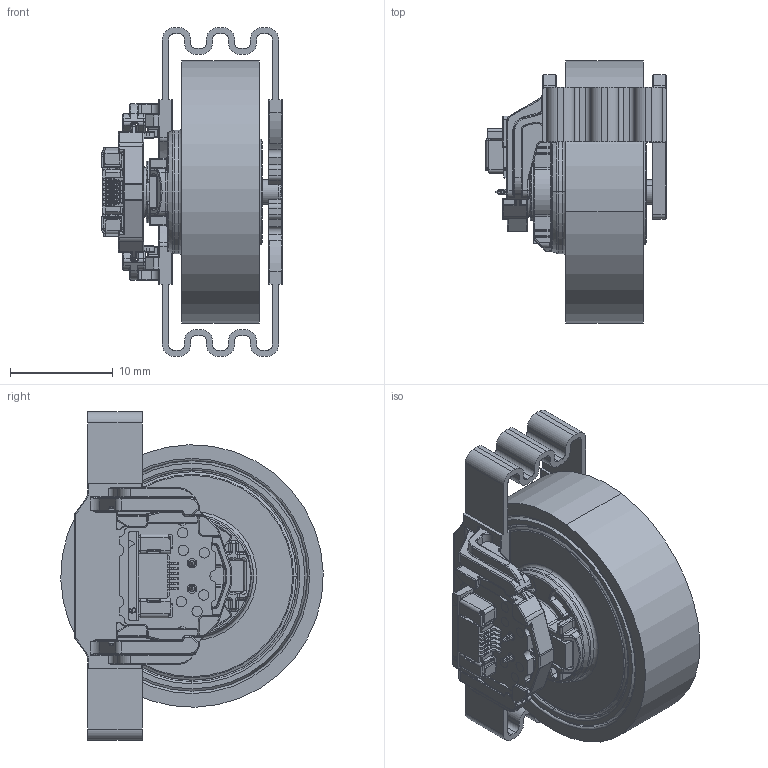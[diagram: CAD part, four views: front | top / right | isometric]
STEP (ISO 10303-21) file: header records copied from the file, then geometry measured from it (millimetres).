
FILE_DESCRIPTION(('Creo Elements/Direct Modeling STEP Export'),'2;1');
FILE_NAME('Confidential_Core01_X007.stp','2025-09-15T16:38:48',(''),(''),'Creo Elements/Direct Modeling STEP processor for AP214 (Solid Model)','Creo Elements/Direct Modeling 20.4C 14-Jan-2023 (C) Parametric Technology GmbH','');
FILE_SCHEMA(('AUTOMOTIVE_DESIGN { 1 0 10303 214 1 1 1 1 }'));
Length unit declared in the file: millimetre
Products named in the file (8): Hapticore; Stecker; PCBA; PCB; Hapticore_One; Dummy_Cradle; Dummy_Roller; Confidential_Core01_X007
Assembly tree (7 placements, depth 4):
  Confidential_Core01_X007
    Dummy_Roller
    Dummy_Cradle
    Hapticore_One
      PCB
        PCBA
        Stecker
      Hapticore
Bounding box: 17.55 x 25.55 x 31.99 mm (x, y, z)
Volume: 4829.4 mm3; surface area: 5544.7 mm2
Topology: 5 solids, 6 shells, 4149 faces, 10905 edges, 6697 vertices
Faces by surface type: plane 1496, cylinder 1367, bspline 735, torus 420, cone 74, sphere 57
Entity records: 205744 total; most frequent: CARTESIAN_POINT 103034, ORIENTED_EDGE 21580, DIRECTION 17458, EDGE_CURVE 10790, VERTEX_POINT 6697, AXIS2_PLACEMENT_3D 5969, VECTOR 5520, LINE 5520
